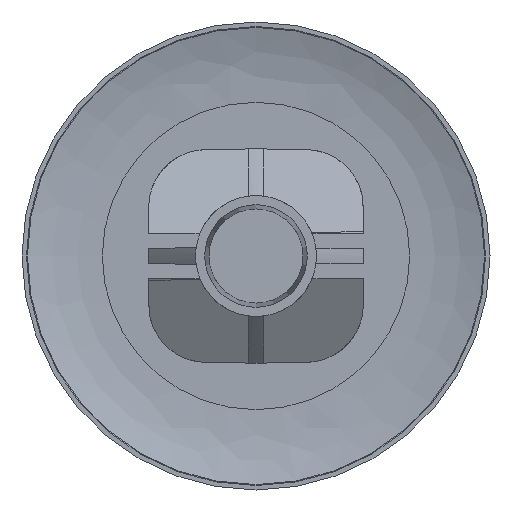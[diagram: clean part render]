
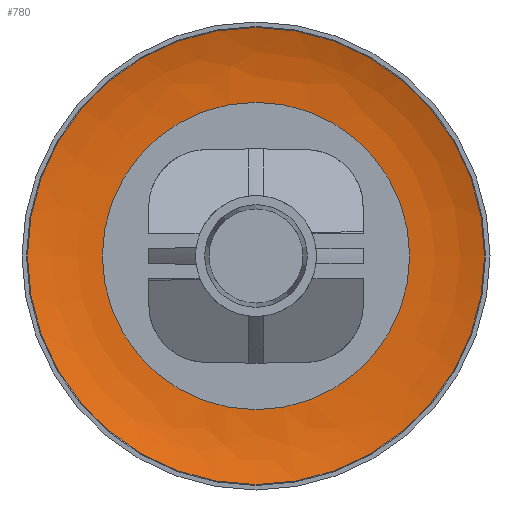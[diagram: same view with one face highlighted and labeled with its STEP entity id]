
A CAD part, front view. The second image highlights one B-rep face of the part: STEP entity #780.
In plain terms, the highlighted free-form (B-spline) face has degree [3, 3] with [4, 7] control points.
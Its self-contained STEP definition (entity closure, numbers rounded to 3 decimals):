
#723=(
BOUNDED_SURFACE()
B_SPLINE_SURFACE(3,3,((#3424,#3425,#3426,#3427,#3428,#3429,#3430),(#3431,
#3432,#3433,#3434,#3435,#3436,#3437),(#3438,#3439,#3440,#3441,#3442,#3443,
#3444),(#3445,#3446,#3447,#3448,#3449,#3450,#3451)),.UNSPECIFIED.,.F.,.T.,
 .F.)
B_SPLINE_SURFACE_WITH_KNOTS((4,4),(1,3,3,3,1),(0.,1.),(-0.5,0.,0.5,1.,1.5),
 .UNSPECIFIED.)
GEOMETRIC_REPRESENTATION_ITEM()
RATIONAL_B_SPLINE_SURFACE(((1.,0.333,0.333,1.,0.333,
0.333,1.),(0.99,0.33,0.33,
0.99,0.33,0.33,0.99),
(0.99,0.33,0.33,0.99,
0.33,0.33,0.99),(1.,0.333,
0.333,1.,0.333,0.333,1.)))
REPRESENTATION_ITEM('')
SURFACE()
);
#758=FACE_BOUND('',#1049,.T.);
#759=FACE_BOUND('',#1050,.T.);
#780=ADVANCED_FACE('',(#758,#759),#723,.T.);
#1049=EDGE_LOOP('',(#1227));
#1050=EDGE_LOOP('',(#1228));
#1227=ORIENTED_EDGE('',*,*,#2190,.T.);
#1228=ORIENTED_EDGE('',*,*,#2189,.F.);
#1946=VERTEX_POINT('',#3420);
#1947=VERTEX_POINT('',#3423);
#2189=EDGE_CURVE('',#1946,#1946,#2534,.T.);
#2190=EDGE_CURVE('',#1947,#1947,#2535,.T.);
#2534=CIRCLE('',#2568,15.14);
#2535=CIRCLE('',#2570,10.181);
#2568=AXIS2_PLACEMENT_3D('',#3419,#2748,#2749);
#2570=AXIS2_PLACEMENT_3D('',#3422,#2752,#2753);
#2748=DIRECTION('',(0.,1.,0.));
#2749=DIRECTION('',(0.,0.,1.));
#2752=DIRECTION('',(0.,1.,0.));
#2753=DIRECTION('',(0.,0.,1.));
#3419=CARTESIAN_POINT('',(0.,11.926,0.));
#3420=CARTESIAN_POINT('',(0.,11.926,15.14));
#3422=CARTESIAN_POINT('',(0.,12.8,0.));
#3423=CARTESIAN_POINT('',(0.,12.8,10.181));
#3424=CARTESIAN_POINT('',(0.,11.926,-15.14));
#3425=CARTESIAN_POINT('',(-30.28,11.926,-15.14));
#3426=CARTESIAN_POINT('',(-30.28,11.926,15.14));
#3427=CARTESIAN_POINT('',(0.,11.926,15.14));
#3428=CARTESIAN_POINT('',(30.28,11.926,15.14));
#3429=CARTESIAN_POINT('',(30.28,11.926,-15.14));
#3430=CARTESIAN_POINT('',(0.,11.926,-15.14));
#3431=CARTESIAN_POINT('',(0.,12.506,-13.547));
#3432=CARTESIAN_POINT('',(-27.093,12.506,-13.547));
#3433=CARTESIAN_POINT('',(-27.093,12.506,13.547));
#3434=CARTESIAN_POINT('',(0.,12.506,13.547));
#3435=CARTESIAN_POINT('',(27.093,12.506,13.547));
#3436=CARTESIAN_POINT('',(27.093,12.506,-13.547));
#3437=CARTESIAN_POINT('',(0.,12.506,-13.547));
#3438=CARTESIAN_POINT('',(0.,12.8,-11.877));
#3439=CARTESIAN_POINT('',(-23.753,12.8,-11.877));
#3440=CARTESIAN_POINT('',(-23.753,12.8,11.877));
#3441=CARTESIAN_POINT('',(0.,12.8,11.877));
#3442=CARTESIAN_POINT('',(23.753,12.8,11.877));
#3443=CARTESIAN_POINT('',(23.753,12.8,-11.877));
#3444=CARTESIAN_POINT('',(0.,12.8,-11.877));
#3445=CARTESIAN_POINT('',(0.,12.8,-10.181));
#3446=CARTESIAN_POINT('',(-20.362,12.8,-10.181));
#3447=CARTESIAN_POINT('',(-20.362,12.8,10.181));
#3448=CARTESIAN_POINT('',(0.,12.8,10.181));
#3449=CARTESIAN_POINT('',(20.362,12.8,10.181));
#3450=CARTESIAN_POINT('',(20.362,12.8,-10.181));
#3451=CARTESIAN_POINT('',(0.,12.8,-10.181));
